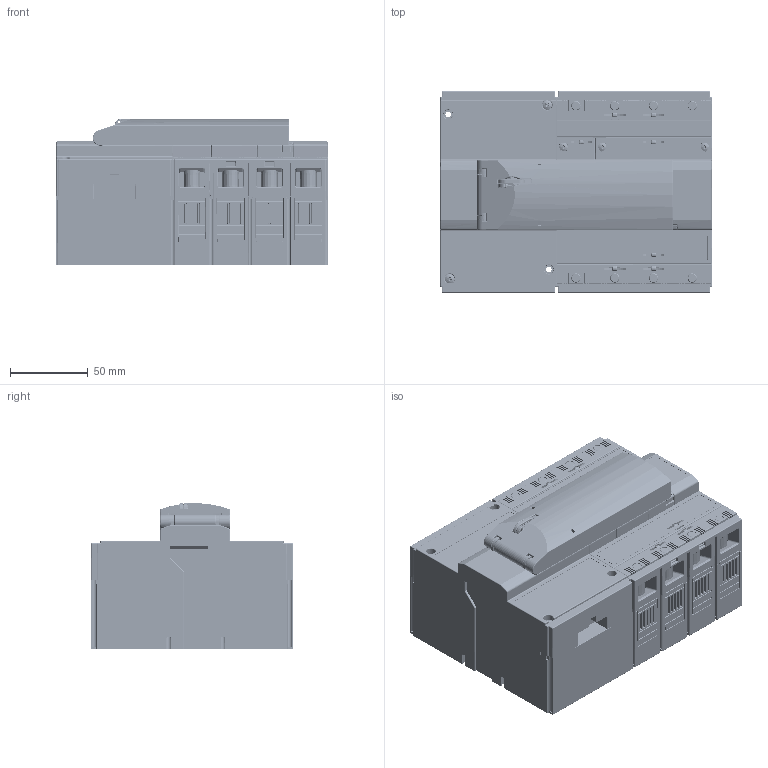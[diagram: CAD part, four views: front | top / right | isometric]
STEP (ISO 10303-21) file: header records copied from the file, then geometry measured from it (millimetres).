
FILE_DESCRIPTION (( 'STEP AP214' ), '1' );
FILE_NAME ('BC160NT405_406__MP-BC_fin.step', '2013-05-23T10:48:26', ( '' ), ( '' ), 'SwSTEP 2.0', 'SolidWorks 2011', '' );
FILE_SCHEMA (( 'AUTOMOTIVE_DESIGN' ));
Length unit declared in the file: millimetre
Products named in the file (1): BC160NT405_406__MP-BC_fin
Bounding box: 174.9 x 130 x 94.7 mm (x, y, z)
Volume: 1613786.4 mm3; surface area: 222489.9 mm2
Topology: 11 solids, 20 shells, 7016 faces, 19159 edges, 12163 vertices
Faces by surface type: plane 3737, cylinder 1962, bspline 478, cone 465, torus 333, sphere 41
Entity records: 335455 total; most frequent: CARTESIAN_POINT 89792, ORIENTED_EDGE 38132, DIRECTION 30601, EDGE_CURVE 19066, VERTEX_POINT 12160, LINE 12073, VECTOR 12073, AXIS2_PLACEMENT_3D 9264
